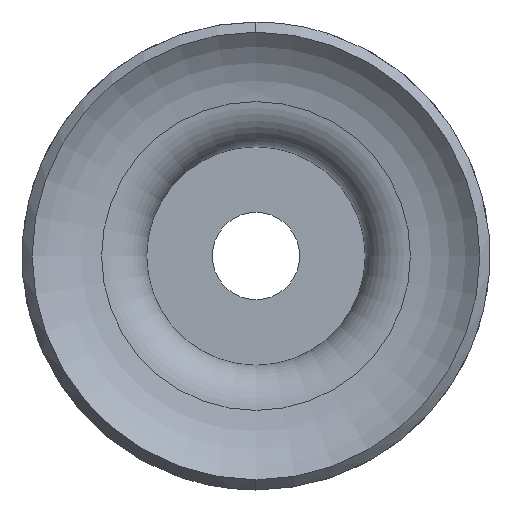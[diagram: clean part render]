
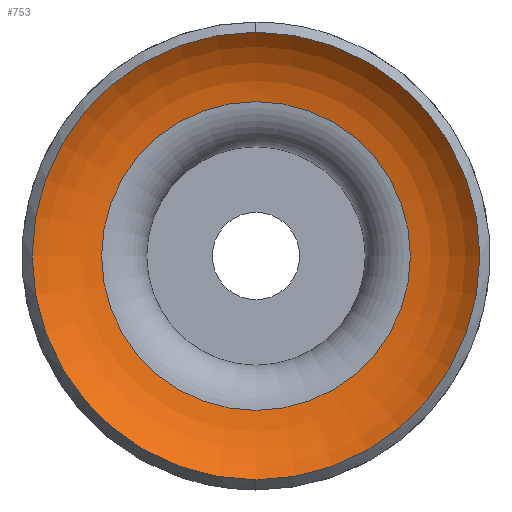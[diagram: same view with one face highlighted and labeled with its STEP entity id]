
A CAD part, front view. The second image highlights one B-rep face of the part: STEP entity #753.
In plain terms, the highlighted toroidal (fillet/blend) face has major radius 9.246 mm and minor radius 7.068 mm.
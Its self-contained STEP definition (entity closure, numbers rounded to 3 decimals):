
#17 = CARTESIAN_POINT ( 'NONE',  ( 0., -12.042, 0. ) ) ;
#38 = CARTESIAN_POINT ( 'NONE',  ( 0., -12.042, -14.348 ) ) ;
#240 = ORIENTED_EDGE ( 'NONE', *, *, #340, .T. ) ;
#243 = CARTESIAN_POINT ( 'NONE',  ( 0., -9.895, 9.897 ) ) ;
#340 = EDGE_CURVE ( 'NONE', #1623, #1623, #1127, .T. ) ;
#375 = AXIS2_PLACEMENT_3D ( 'NONE', #17, #1281, #494 ) ;
#494 = DIRECTION ( 'NONE',  ( 0., 0., -1. ) ) ;
#563 = EDGE_CURVE ( 'NONE', #763, #726, #674, .T. ) ;
#568 = TOROIDAL_SURFACE ( 'NONE', #1234, 9.246, 7.068 ) ;
#613 = CIRCLE ( 'NONE', #944, 14.348 ) ;
#642 = ORIENTED_EDGE ( 'NONE', *, *, #563, .T. ) ;
#660 = CARTESIAN_POINT ( 'NONE',  ( 0., -12.042, 14.348 ) ) ;
#674 = CIRCLE ( 'NONE', #375, 14.348 ) ;
#726 = VERTEX_POINT ( 'NONE', #660 ) ;
#753 = ADVANCED_FACE ( 'NONE', ( #1248, #1112 ), #568, .F. ) ;
#763 = VERTEX_POINT ( 'NONE', #38 ) ;
#776 = CARTESIAN_POINT ( 'NONE',  ( 0., -16.933, 0. ) ) ;
#790 = DIRECTION ( 'NONE',  ( 0., 1., 0. ) ) ;
#800 = DIRECTION ( 'NONE',  ( 0., 0., -1. ) ) ;
#852 = DIRECTION ( 'NONE',  ( 0., 1., 0. ) ) ;
#922 = DIRECTION ( 'NONE',  ( 0., -1., 0. ) ) ;
#935 = EDGE_LOOP ( 'NONE', ( #1362, #642 ) ) ;
#944 = AXIS2_PLACEMENT_3D ( 'NONE', #1309, #922, #800 ) ;
#955 = DIRECTION ( 'NONE',  ( 0., 0., 1. ) ) ;
#997 = AXIS2_PLACEMENT_3D ( 'NONE', #1466, #852, #955 ) ;
#1000 = EDGE_CURVE ( 'NONE', #726, #763, #613, .T. ) ;
#1112 = FACE_OUTER_BOUND ( 'NONE', #1204, .T. ) ;
#1127 = CIRCLE ( 'NONE', #997, 9.897 ) ;
#1204 = EDGE_LOOP ( 'NONE', ( #240 ) ) ;
#1234 = AXIS2_PLACEMENT_3D ( 'NONE', #776, #790, #1566 ) ;
#1248 = FACE_OUTER_BOUND ( 'NONE', #935, .T. ) ;
#1281 = DIRECTION ( 'NONE',  ( 0., -1., 0. ) ) ;
#1309 = CARTESIAN_POINT ( 'NONE',  ( 0., -12.042, 0. ) ) ;
#1362 = ORIENTED_EDGE ( 'NONE', *, *, #1000, .T. ) ;
#1466 = CARTESIAN_POINT ( 'NONE',  ( 0., -9.895, 0. ) ) ;
#1566 = DIRECTION ( 'NONE',  ( 0., 0., 1. ) ) ;
#1623 = VERTEX_POINT ( 'NONE', #243 ) ;
